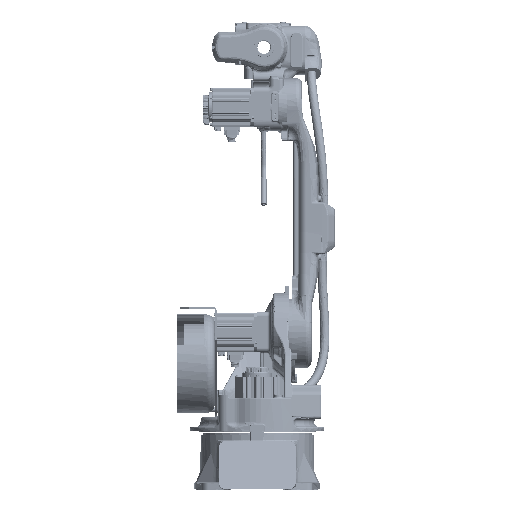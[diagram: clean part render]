
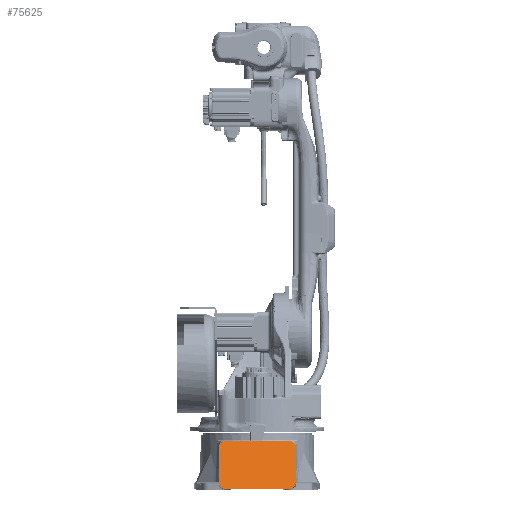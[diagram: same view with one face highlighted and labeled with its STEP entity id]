
A CAD part, left-side view. The second image highlights one B-rep face of the part: STEP entity #75625.
In plain terms, the highlighted planar face has unit normal (-0.921, 0, 0.39).
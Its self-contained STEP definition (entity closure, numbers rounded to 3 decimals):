
#16476=LINE('',#626230,#25440);
#16484=LINE('',#626618,#25448);
#16486=LINE('',#626727,#25450);
#16491=LINE('',#626741,#25455);
#25440=VECTOR('',#286641,1.);
#25448=VECTOR('',#286663,1.);
#25450=VECTOR('',#286667,1.);
#25455=VECTOR('',#286674,1.);
#48951=(
BOUNDED_CURVE()
B_SPLINE_CURVE(3,(#623768,#623769,#623770,#623771),.UNSPECIFIED.,.F.,.F.)
B_SPLINE_CURVE_WITH_KNOTS((4,4),(0.,1.),.UNSPECIFIED.)
CURVE()
GEOMETRIC_REPRESENTATION_ITEM()
RATIONAL_B_SPLINE_CURVE((1.,0.805,0.805,1.))
REPRESENTATION_ITEM('')
);
#48953=(
BOUNDED_CURVE()
B_SPLINE_CURVE(3,(#623800,#623801,#623802,#623803),.UNSPECIFIED.,.F.,.F.)
B_SPLINE_CURVE_WITH_KNOTS((4,4),(0.,1.),.UNSPECIFIED.)
CURVE()
GEOMETRIC_REPRESENTATION_ITEM()
RATIONAL_B_SPLINE_CURVE((1.,0.805,0.805,1.))
REPRESENTATION_ITEM('')
);
#48984=(
BOUNDED_CURVE()
B_SPLINE_CURVE(3,(#627133,#627134,#627135,#627136),.UNSPECIFIED.,.F.,.F.)
B_SPLINE_CURVE_WITH_KNOTS((4,4),(0.,1.),.UNSPECIFIED.)
CURVE()
GEOMETRIC_REPRESENTATION_ITEM()
RATIONAL_B_SPLINE_CURVE((1.,0.805,0.805,1.))
REPRESENTATION_ITEM('')
);
#48985=(
BOUNDED_CURVE()
B_SPLINE_CURVE(3,(#627137,#627138,#627139,#627140),.UNSPECIFIED.,.F.,.F.)
B_SPLINE_CURVE_WITH_KNOTS((4,4),(0.,1.),.UNSPECIFIED.)
CURVE()
GEOMETRIC_REPRESENTATION_ITEM()
RATIONAL_B_SPLINE_CURVE((1.,0.805,0.805,1.))
REPRESENTATION_ITEM('')
);
#48986=(
BOUNDED_CURVE()
B_SPLINE_CURVE(3,(#627141,#627142,#627143,#627144),.UNSPECIFIED.,.F.,.F.)
B_SPLINE_CURVE_WITH_KNOTS((4,4),(0.,1.),.UNSPECIFIED.)
CURVE()
GEOMETRIC_REPRESENTATION_ITEM()
RATIONAL_B_SPLINE_CURVE((1.,0.805,0.805,1.))
REPRESENTATION_ITEM('')
);
#48987=(
BOUNDED_CURVE()
B_SPLINE_CURVE(3,(#627145,#627146,#627147,#627148),.UNSPECIFIED.,.F.,.F.)
B_SPLINE_CURVE_WITH_KNOTS((4,4),(0.,1.),.UNSPECIFIED.)
CURVE()
GEOMETRIC_REPRESENTATION_ITEM()
RATIONAL_B_SPLINE_CURVE((1.,0.805,0.805,1.))
REPRESENTATION_ITEM('')
);
#53478=PLANE('',#248088);
#63786=FACE_OUTER_BOUND('',#92385,.T.);
#75625=ADVANCED_FACE('',(#63786),#53478,.F.);
#92385=EDGE_LOOP('',(#153143,#153144,#153145,#153146,#153147,#153148,#153149,
#153150,#153151,#153152));
#153143=ORIENTED_EDGE('',*,*,#207004,.T.);
#153144=ORIENTED_EDGE('',*,*,#206622,.F.);
#153145=ORIENTED_EDGE('',*,*,#206970,.F.);
#153146=ORIENTED_EDGE('',*,*,#206616,.F.);
#153147=ORIENTED_EDGE('',*,*,#207005,.F.);
#153148=ORIENTED_EDGE('',*,*,#206975,.F.);
#153149=ORIENTED_EDGE('',*,*,#207006,.T.);
#153150=ORIENTED_EDGE('',*,*,#206938,.F.);
#153151=ORIENTED_EDGE('',*,*,#207007,.T.);
#153152=ORIENTED_EDGE('',*,*,#206981,.T.);
#175789=VERTEX_POINT('',#623766);
#175791=VERTEX_POINT('',#623772);
#175794=VERTEX_POINT('',#623790);
#175796=VERTEX_POINT('',#623799);
#176059=VERTEX_POINT('',#626229);
#176060=VERTEX_POINT('',#626231);
#176081=VERTEX_POINT('',#626726);
#176082=VERTEX_POINT('',#626728);
#176086=VERTEX_POINT('',#626742);
#176087=VERTEX_POINT('',#626743);
#206616=EDGE_CURVE('',#175789,#175791,#48951,.T.);
#206622=EDGE_CURVE('',#175796,#175794,#48953,.T.);
#206938=EDGE_CURVE('',#176059,#176060,#16476,.T.);
#206970=EDGE_CURVE('',#175791,#175796,#16484,.T.);
#206975=EDGE_CURVE('',#176081,#176082,#16486,.T.);
#206981=EDGE_CURVE('',#176086,#176087,#16491,.T.);
#207004=EDGE_CURVE('',#176087,#175794,#48984,.T.);
#207005=EDGE_CURVE('',#176082,#175789,#48985,.T.);
#207006=EDGE_CURVE('',#176081,#176060,#48986,.T.);
#207007=EDGE_CURVE('',#176059,#176086,#48987,.T.);
#248088=AXIS2_PLACEMENT_3D('',#627149,#286682,#286683);
#286641=DIRECTION('',(0.,-1.,0.));
#286663=DIRECTION('',(0.,1.,0.));
#286667=DIRECTION('',(-0.39,0.,-0.921));
#286674=DIRECTION('',(-0.39,0.,-0.921));
#286682=DIRECTION('',(0.921,0.,-0.39));
#286683=DIRECTION('',(-0.39,0.,-0.921));
#623766=CARTESIAN_POINT('',(-299.957,-189.999,471.795));
#623768=CARTESIAN_POINT('',(-294.046,-196.631,485.761));
#623769=CARTESIAN_POINT('',(-298.993,-196.631,474.074));
#623770=CARTESIAN_POINT('',(-302.49,-187.021,465.809));
#623771=CARTESIAN_POINT('',(-302.49,-173.431,465.809));
#623772=CARTESIAN_POINT('',(-302.49,-173.431,465.809));
#623790=CARTESIAN_POINT('',(-299.957,51.937,471.795));
#623799=CARTESIAN_POINT('',(-302.49,35.369,465.809));
#623800=CARTESIAN_POINT('',(-302.49,35.369,465.809));
#623801=CARTESIAN_POINT('',(-302.49,48.959,465.809));
#623802=CARTESIAN_POINT('',(-298.993,58.569,474.074));
#623803=CARTESIAN_POINT('',(-294.046,58.569,485.761));
#626229=CARTESIAN_POINT('',(-234.515,35.569,626.423));
#626230=CARTESIAN_POINT('',(-234.515,-189.225,626.423));
#626231=CARTESIAN_POINT('',(-234.515,-173.631,626.423));
#626618=CARTESIAN_POINT('',(-302.49,-329.315,465.809));
#626726=CARTESIAN_POINT('',(-242.887,-196.631,606.643));
#626727=CARTESIAN_POINT('',(-295.38,-196.631,482.609));
#626728=CARTESIAN_POINT('',(-294.046,-196.631,485.761));
#626741=CARTESIAN_POINT('',(-302.49,58.569,465.809));
#626742=CARTESIAN_POINT('',(-242.887,58.569,606.643));
#626743=CARTESIAN_POINT('',(-294.046,58.569,485.761));
#627133=CARTESIAN_POINT('',(-294.046,58.569,485.761));
#627134=CARTESIAN_POINT('',(-298.993,58.569,474.074));
#627135=CARTESIAN_POINT('',(-302.49,48.959,465.809));
#627136=CARTESIAN_POINT('',(-302.49,35.369,465.809));
#627137=CARTESIAN_POINT('',(-294.046,-196.631,485.761));
#627138=CARTESIAN_POINT('',(-298.993,-196.631,474.074));
#627139=CARTESIAN_POINT('',(-302.49,-187.021,465.809));
#627140=CARTESIAN_POINT('',(-302.49,-173.431,465.809));
#627141=CARTESIAN_POINT('',(-242.887,-196.631,606.643));
#627142=CARTESIAN_POINT('',(-237.983,-196.631,618.23));
#627143=CARTESIAN_POINT('',(-234.515,-187.104,626.423));
#627144=CARTESIAN_POINT('',(-234.515,-173.631,626.423));
#627145=CARTESIAN_POINT('',(-234.515,35.569,626.423));
#627146=CARTESIAN_POINT('',(-234.515,49.042,626.423));
#627147=CARTESIAN_POINT('',(-237.983,58.569,618.23));
#627148=CARTESIAN_POINT('',(-242.887,58.569,606.643));
#627149=CARTESIAN_POINT('',(-302.49,-329.315,465.809));
